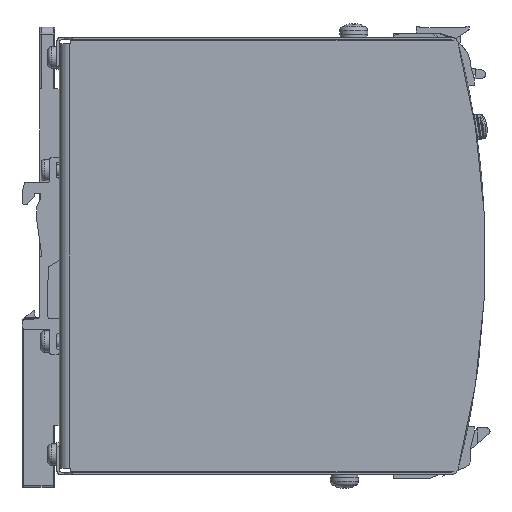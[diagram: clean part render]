
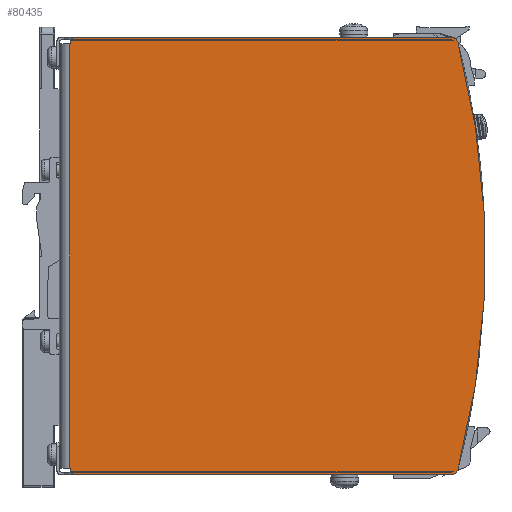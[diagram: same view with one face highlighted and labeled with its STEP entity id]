
A CAD part, front view. The second image highlights one B-rep face of the part: STEP entity #80435.
In plain terms, the highlighted planar face has unit normal (0, -1, 0).
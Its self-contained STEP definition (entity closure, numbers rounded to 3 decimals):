
#141=DIRECTION('',(-1.,0.,0.));
#142=VECTOR('',#141,4.237);
#143=CARTESIAN_POINT('',(2.019,-1.614,2.411));
#144=LINE('',#143,#142);
#203=CARTESIAN_POINT('',(2.035,-1.614,2.388));
#204=DIRECTION('',(0.,-1.,0.));
#205=DIRECTION('',(0.05,0.,0.999));
#206=AXIS2_PLACEMENT_3D('',#203,#204,#205);
#208=CARTESIAN_POINT('',(2.019,-1.614,2.372));
#209=DIRECTION('',(0.,1.,0.));
#210=DIRECTION('',(0.,0.,1.));
#211=AXIS2_PLACEMENT_3D('',#208,#209,#210);
#213=DIRECTION('',(0.,0.,-1.));
#214=VECTOR('',#213,0.03);
#215=CARTESIAN_POINT('',(-2.219,-1.614,2.441));
#216=LINE('',#215,#214);
#217=DIRECTION('',(-1.,0.,0.));
#218=VECTOR('',#217,4.237);
#219=CARTESIAN_POINT('',(2.019,-1.614,2.441));
#220=LINE('',#219,#218);
#221=CARTESIAN_POINT('',(2.019,-1.614,2.372));
#222=DIRECTION('',(0.,-1.,0.));
#223=DIRECTION('',(0.968,0.,0.252));
#224=AXIS2_PLACEMENT_3D('',#221,#222,#223);
#226=CARTESIAN_POINT('',(-7.087,-1.614,0.));
#227=DIRECTION('',(0.,-1.,0.));
#228=DIRECTION('',(0.968,0.,-0.252));
#229=AXIS2_PLACEMENT_3D('',#226,#227,#228);
#231=CARTESIAN_POINT('',(2.019,-1.614,-2.372));
#232=DIRECTION('',(0.,-1.,0.));
#233=DIRECTION('',(0.,0.,-1.));
#234=AXIS2_PLACEMENT_3D('',#231,#232,#233);
#236=DIRECTION('',(1.,0.,0.));
#237=VECTOR('',#236,4.237);
#238=CARTESIAN_POINT('',(-2.219,-1.614,
-2.441));
#239=LINE('',#238,#237);
#240=DIRECTION('',(0.,0.,-1.));
#241=VECTOR('',#240,0.03);
#242=CARTESIAN_POINT('',(-2.219,-1.614,
-2.411));
#243=LINE('',#242,#241);
#244=DIRECTION('',(-1.,0.,0.));
#245=VECTOR('',#244,4.237);
#246=CARTESIAN_POINT('',(2.019,-1.614,-2.411));
#247=LINE('',#246,#245);
#248=CARTESIAN_POINT('',(2.019,-1.614,-2.372));
#249=DIRECTION('',(0.,1.,0.));
#250=DIRECTION('',(0.437,0.,-0.899));
#251=AXIS2_PLACEMENT_3D('',#248,#249,#250);
#253=CARTESIAN_POINT('',(2.035,-1.614,-2.388));
#254=DIRECTION('',(0.,-1.,0.));
#255=DIRECTION('',(0.,0.,-1.));
#256=AXIS2_PLACEMENT_3D('',#253,#254,#255);
#258=DIRECTION('',(1.,0.,0.));
#259=VECTOR('',#258,4.275);
#260=CARTESIAN_POINT('',(-2.24,-1.614,
-2.407));
#261=LINE('',#260,#259);
#740=DIRECTION('',(0.,0.,1.));
#741=VECTOR('',#740,4.736);
#742=CARTESIAN_POINT('',(-2.244,-1.614,
-2.368));
#743=LINE('',#742,#741);
#791=DIRECTION('',(1.,0.,0.));
#792=VECTOR('',#791,0.004);
#793=CARTESIAN_POINT('',(-2.244,-1.614,2.368));
#794=LINE('',#793,#792);
#841=DIRECTION('',(-1.,0.,0.));
#842=VECTOR('',#841,0.004);
#843=CARTESIAN_POINT('',(-2.24,-1.614,
-2.368));
#844=LINE('',#843,#842);
#876=DIRECTION('',(0.,0.,1.));
#877=VECTOR('',#876,0.039);
#878=CARTESIAN_POINT('',(-2.24,-1.614,
-2.407));
#879=LINE('',#878,#877);
#35178=DIRECTION('',(1.,0.,0.));
#35179=VECTOR('',#35178,4.275);
#35180=CARTESIAN_POINT('',(-2.24,-1.614,
2.407));
#35181=LINE('',#35180,#35179);
#35186=DIRECTION('',(0.,0.,1.));
#35187=VECTOR('',#35186,0.039);
#35188=CARTESIAN_POINT('',(-2.24,-1.614,
2.368));
#35189=LINE('',#35188,#35187);
#58692=CARTESIAN_POINT('',(2.035,-1.614,
-2.407));
#58694=VERTEX_POINT('',#58692);
#58696=CARTESIAN_POINT('',(-2.24,-1.614,
-2.407));
#58697=VERTEX_POINT('',#58696);
#58700=CARTESIAN_POINT('',(-2.24,-1.614,
2.407));
#58701=CARTESIAN_POINT('',(2.035,-1.614,
2.407));
#58702=VERTEX_POINT('',#58700);
#58703=VERTEX_POINT('',#58701);
#58704=CARTESIAN_POINT('',(-2.24,-1.614,
2.368));
#58705=VERTEX_POINT('',#58704);
#58706=CARTESIAN_POINT('',(-2.244,-1.614,
2.368));
#58707=VERTEX_POINT('',#58706);
#58708=CARTESIAN_POINT('',(-2.244,-1.614,
-2.368));
#58709=VERTEX_POINT('',#58708);
#58710=CARTESIAN_POINT('',(-2.24,-1.614,
-2.368));
#58711=VERTEX_POINT('',#58710);
#60378=CARTESIAN_POINT('',(2.086,-1.614,
2.389));
#60379=VERTEX_POINT('',#60378);
#60380=CARTESIAN_POINT('',(2.086,-1.614,
-2.389));
#60381=VERTEX_POINT('',#60380);
#60498=CARTESIAN_POINT('',(2.019,-1.614,
-2.411));
#60499=VERTEX_POINT('',#60498);
#60512=CARTESIAN_POINT('',(-2.219,-1.614,
-2.411));
#60513=VERTEX_POINT('',#60512);
#62234=CARTESIAN_POINT('',(2.019,-1.614,
2.411));
#62235=VERTEX_POINT('',#62234);
#62236=CARTESIAN_POINT('',(2.019,-1.614,
2.441));
#62237=VERTEX_POINT('',#62236);
#62262=CARTESIAN_POINT('',(-2.219,-1.614,
2.411));
#62263=VERTEX_POINT('',#62262);
#62264=CARTESIAN_POINT('',(-2.219,-1.614,
2.441));
#62265=VERTEX_POINT('',#62264);
#62266=CARTESIAN_POINT('',(-2.219,-1.614,
-2.441));
#62268=VERTEX_POINT('',#62266);
#65200=CARTESIAN_POINT('',(2.019,-1.614,
-2.441));
#65201=VERTEX_POINT('',#65200);
#69853=CARTESIAN_POINT('',(2.036,-1.614,
-2.407));
#69855=VERTEX_POINT('',#69853);
#69858=CARTESIAN_POINT('',(2.036,-1.614,
2.407));
#69860=VERTEX_POINT('',#69858);
#80392=CARTESIAN_POINT('',(2.756,-1.614,
-2.407));
#80393=DIRECTION('',(0.,-1.,0.));
#80394=DIRECTION('',(0.,0.,-1.));
#80395=AXIS2_PLACEMENT_3D('',#80392,#80393,#80394);
#80396=PLANE('',#80395);
#80397=ORIENTED_EDGE('',*,*,#80383,.F.);
#80398=ORIENTED_EDGE('',*,*,#80372,.F.);
#80399=ORIENTED_EDGE('',*,*,#76676,.T.);
#80401=ORIENTED_EDGE('',*,*,#80400,.F.);
#80402=ORIENTED_EDGE('',*,*,#72955,.F.);
#80404=ORIENTED_EDGE('',*,*,#80403,.F.);
#80406=ORIENTED_EDGE('',*,*,#80405,.F.);
#80408=ORIENTED_EDGE('',*,*,#80407,.F.);
#80410=ORIENTED_EDGE('',*,*,#80409,.F.);
#80412=ORIENTED_EDGE('',*,*,#80411,.F.);
#80414=ORIENTED_EDGE('',*,*,#80413,.F.);
#80416=ORIENTED_EDGE('',*,*,#80415,.F.);
#80418=ORIENTED_EDGE('',*,*,#80417,.F.);
#80420=ORIENTED_EDGE('',*,*,#80419,.F.);
#80422=ORIENTED_EDGE('',*,*,#80421,.T.);
#80424=ORIENTED_EDGE('',*,*,#80423,.T.);
#80426=ORIENTED_EDGE('',*,*,#80425,.T.);
#80428=ORIENTED_EDGE('',*,*,#80427,.T.);
#80430=ORIENTED_EDGE('',*,*,#80429,.T.);
#80432=ORIENTED_EDGE('',*,*,#80431,.T.);
#80433=EDGE_LOOP('',(#80397,#80398,#80399,#80401,#80402,#80404,#80406,#80408,
#80410,#80412,#80414,#80416,#80418,#80420,#80422,#80424,#80426,#80428,#80430,
#80432));
#80434=FACE_OUTER_BOUND('',#80433,.F.);
#80435=ADVANCED_FACE('',(#80434),#80396,.T.);
#207=CIRCLE('',#206,0.02);
#212=CIRCLE('',#211,0.039);
#225=CIRCLE('',#224,0.069);
#230=CIRCLE('',#229,9.478);
#235=CIRCLE('',#234,0.069);
#252=CIRCLE('',#251,0.039);
#257=CIRCLE('',#256,0.02);
#72955=EDGE_CURVE('',#62237,#62265,#220,.T.);
#76676=EDGE_CURVE('',#62235,#62263,#144,.T.);
#80372=EDGE_CURVE('',#62235,#69860,#212,.T.);
#80383=EDGE_CURVE('',#69860,#58703,#207,.T.);
#80400=EDGE_CURVE('',#62265,#62263,#216,.T.);
#80403=EDGE_CURVE('',#60379,#62237,#225,.T.);
#80405=EDGE_CURVE('',#60381,#60379,#230,.T.);
#80407=EDGE_CURVE('',#65201,#60381,#235,.T.);
#80409=EDGE_CURVE('',#62268,#65201,#239,.T.);
#80411=EDGE_CURVE('',#60513,#62268,#243,.T.);
#80413=EDGE_CURVE('',#60499,#60513,#247,.T.);
#80415=EDGE_CURVE('',#69855,#60499,#252,.T.);
#80417=EDGE_CURVE('',#58694,#69855,#257,.T.);
#80419=EDGE_CURVE('',#58697,#58694,#261,.T.);
#80421=EDGE_CURVE('',#58697,#58711,#879,.T.);
#80423=EDGE_CURVE('',#58711,#58709,#844,.T.);
#80425=EDGE_CURVE('',#58709,#58707,#743,.T.);
#80427=EDGE_CURVE('',#58707,#58705,#794,.T.);
#80429=EDGE_CURVE('',#58705,#58702,#35189,.T.);
#80431=EDGE_CURVE('',#58702,#58703,#35181,.T.);
